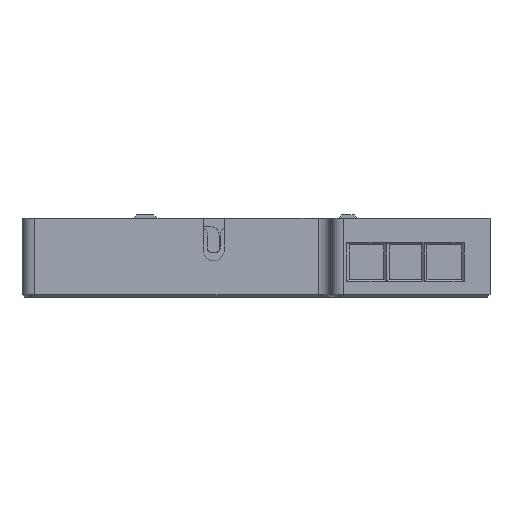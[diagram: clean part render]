
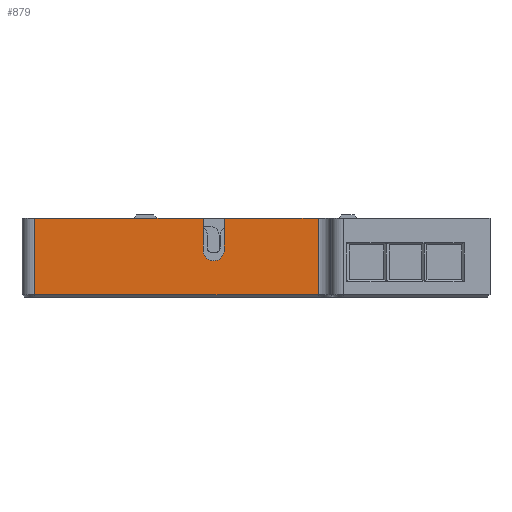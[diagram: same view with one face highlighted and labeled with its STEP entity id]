
A CAD part, left-side view. The second image highlights one B-rep face of the part: STEP entity #879.
In plain terms, the highlighted planar face has unit normal (-1, 0, 0).
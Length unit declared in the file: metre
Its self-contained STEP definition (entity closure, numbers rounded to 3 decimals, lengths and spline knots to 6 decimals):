
#879 = ADVANCED_FACE( '', ( #2564 ), #2565, .T. );
#2564 = FACE_OUTER_BOUND( '', #5252, .T. );
#2565 = PLANE( '', #5253 );
#5252 = EDGE_LOOP( '', ( #8361, #8362, #8363, #8364, #8365, #8366, #8367, #8368 ) );
#5253 = AXIS2_PLACEMENT_3D( '', #8369, #8370, #8371 );
#8361 = ORIENTED_EDGE( '', *, *, #15852, .T. );
#8362 = ORIENTED_EDGE( '', *, *, #15853, .T. );
#8363 = ORIENTED_EDGE( '', *, *, #15854, .T. );
#8364 = ORIENTED_EDGE( '', *, *, #15855, .T. );
#8365 = ORIENTED_EDGE( '', *, *, #15856, .F. );
#8366 = ORIENTED_EDGE( '', *, *, #15857, .F. );
#8367 = ORIENTED_EDGE( '', *, *, #15858, .T. );
#8368 = ORIENTED_EDGE( '', *, *, #15859, .T. );
#8369 = CARTESIAN_POINT( '', ( -0.044119, 0.045972, 0.232 ) );
#8370 = DIRECTION( '', ( -1., 0., 0. ) );
#8371 = DIRECTION( '', ( 0., -1., 0. ) );
#15852 = EDGE_CURVE( '', #18855, #18824, #18856, .T. );
#15853 = EDGE_CURVE( '', #18824, #18857, #18858, .T. );
#15854 = EDGE_CURVE( '', #18857, #18859, #18860, .F. );
#15855 = EDGE_CURVE( '', #18859, #18861, #18862, .T. );
#15856 = EDGE_CURVE( '', #18863, #18861, #18864, .T. );
#15857 = EDGE_CURVE( '', #18865, #18863, #18866, .T. );
#15858 = EDGE_CURVE( '', #18865, #18867, #18868, .T. );
#15859 = EDGE_CURVE( '', #18867, #18855, #18869, .T. );
#18824 = VERTEX_POINT( '', #23183 );
#18855 = VERTEX_POINT( '', #23227 );
#18856 = LINE( '', #23228, #23229 );
#18857 = VERTEX_POINT( '', #23230 );
#18858 = LINE( '', #23231, #23232 );
#18859 = VERTEX_POINT( '', #23233 );
#18860 = LINE( '', #23234, #23235 );
#18861 = VERTEX_POINT( '', #23236 );
#18862 = LINE( '', #23237, #23238 );
#18863 = VERTEX_POINT( '', #23239 );
#18864 = LINE( '', #23240, #23241 );
#18865 = VERTEX_POINT( '', #23242 );
#18866 = CIRCLE( '', #23243, 0.005 );
#18867 = VERTEX_POINT( '', #23244 );
#18868 = LINE( '', #23245, #23246 );
#18869 = LINE( '', #23247, #23248 );
#23183 = CARTESIAN_POINT( '', ( -0.044119, 0.112472, 0.196 ) );
#23227 = CARTESIAN_POINT( '', ( -0.044119, 0.112472, 0.232 ) );
#23228 = CARTESIAN_POINT( '', ( -0.044119, 0.112472, 0.232 ) );
#23229 = VECTOR( '', #29536, 1. );
#23230 = CARTESIAN_POINT( '', ( -0.044119, -0.020528, 0.196 ) );
#23231 = CARTESIAN_POINT( '', ( -0.044119, -0.020528, 0.196 ) );
#23232 = VECTOR( '', #29537, 1. );
#23233 = CARTESIAN_POINT( '', ( -0.044119, -0.020528, 0.232 ) );
#23234 = CARTESIAN_POINT( '', ( -0.044119, -0.020528, 0.232 ) );
#23235 = VECTOR( '', #29538, 1. );
#23236 = CARTESIAN_POINT( '', ( -0.044119, 0.023472, 0.232 ) );
#23237 = CARTESIAN_POINT( '', ( -0.044119, 0.045972, 0.232 ) );
#23238 = VECTOR( '', #29539, 1. );
#23239 = CARTESIAN_POINT( '', ( -0.044119, 0.023472, 0.217 ) );
#23240 = CARTESIAN_POINT( '', ( -0.044119, 0.023472, 0.232474 ) );
#23241 = VECTOR( '', #29540, 1. );
#23242 = CARTESIAN_POINT( '', ( -0.044119, 0.033472, 0.217 ) );
#23243 = AXIS2_PLACEMENT_3D( '', #29541, #29542, #29543 );
#23244 = CARTESIAN_POINT( '', ( -0.044119, 0.033472, 0.232 ) );
#23245 = CARTESIAN_POINT( '', ( -0.044119, 0.033472, 0.232474 ) );
#23246 = VECTOR( '', #29544, 1. );
#23247 = CARTESIAN_POINT( '', ( -0.044119, 0.045972, 0.232 ) );
#23248 = VECTOR( '', #29545, 1. );
#29536 = DIRECTION( '', ( 0., 0., -1. ) );
#29537 = DIRECTION( '', ( 0., -1., 0. ) );
#29538 = DIRECTION( '', ( 0., 0., -1. ) );
#29539 = DIRECTION( '', ( 0., 1., 0. ) );
#29540 = DIRECTION( '', ( 0., 0., 1. ) );
#29541 = CARTESIAN_POINT( '', ( -0.044119, 0.028472, 0.217 ) );
#29542 = DIRECTION( '', ( -1., 0., 0. ) );
#29543 = DIRECTION( '', ( 0., -1., 0. ) );
#29544 = DIRECTION( '', ( 0., 0., 1. ) );
#29545 = DIRECTION( '', ( 0., 1., 0. ) );
